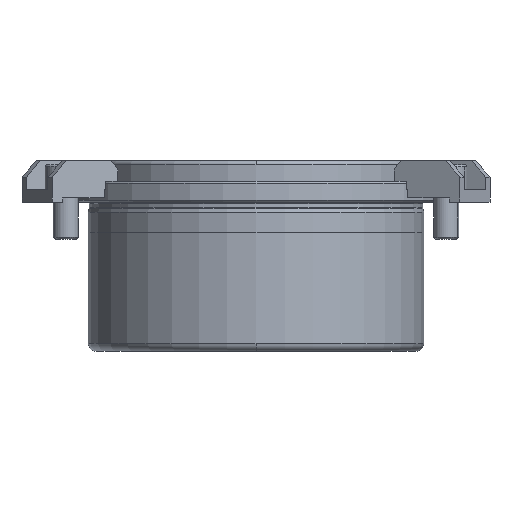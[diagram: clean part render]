
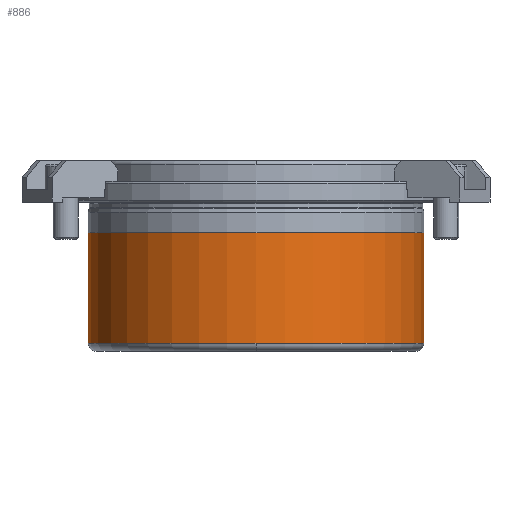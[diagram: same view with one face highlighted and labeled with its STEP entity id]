
A CAD part, front view. The second image highlights one B-rep face of the part: STEP entity #886.
In plain terms, the highlighted cylindrical face has radius 40.496 mm (diameter 80.992 mm), a partial arc.
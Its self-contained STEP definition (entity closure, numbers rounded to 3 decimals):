
#836=CARTESIAN_POINT('',(0.0,0.,-20.7));
#837=DIRECTION('',(0.0,0.,1.0));
#838=DIRECTION('',(1.0,0.0,0.0));
#839=AXIS2_PLACEMENT_3D('',#836,#837,#838);
#840=CYLINDRICAL_SURFACE('',#839,40.496);
#841=CARTESIAN_POINT('',(40.496,0.,-7.4));
#842=VERTEX_POINT('',#841);
#843=CARTESIAN_POINT('',(40.496,0.,-34.0));
#844=VERTEX_POINT('',#843);
#845=CARTESIAN_POINT('',(40.496,0.,-7.4));
#846=DIRECTION('',(0.0,0.0,-1.0));
#847=VECTOR('',#846,26.6);
#848=LINE('',#845,#847);
#849=EDGE_CURVE('',#842,#844,#848,.T.);
#850=ORIENTED_EDGE('',*,*,#849,.F.);
#851=CARTESIAN_POINT('',(-40.496,0.,-7.4));
#852=VERTEX_POINT('',#851);
#853=CARTESIAN_POINT('',(0.0,0.,-7.4));
#854=DIRECTION('',(0.0,0.0,1.0));
#855=DIRECTION('',(1.0,0.0,0.0));
#856=AXIS2_PLACEMENT_3D('',#853,#854,#855);
#857=CIRCLE('',#856,40.496);
#858=EDGE_CURVE('',#852,#842,#857,.T.);
#859=ORIENTED_EDGE('',*,*,#858,.F.);
#860=CARTESIAN_POINT('',(-40.496,0.,-34.0));
#861=VERTEX_POINT('',#860);
#862=CARTESIAN_POINT('',(-40.496,0.,-7.4));
#863=DIRECTION('',(0.0,0.0,-1.0));
#864=VECTOR('',#863,26.6);
#865=LINE('',#862,#864);
#866=EDGE_CURVE('',#852,#861,#865,.T.);
#867=ORIENTED_EDGE('',*,*,#866,.T.);
#868=CARTESIAN_POINT('',(0.0,-40.496,-34.0));
#869=VERTEX_POINT('',#868);
#870=CARTESIAN_POINT('',(0.0,0.,-34.0));
#871=DIRECTION('',(0.0,0.0,1.0));
#872=DIRECTION('',(1.0,0.0,0.0));
#873=AXIS2_PLACEMENT_3D('',#870,#871,#872);
#874=CIRCLE('',#873,40.496);
#875=EDGE_CURVE('',#861,#869,#874,.T.);
#876=ORIENTED_EDGE('',*,*,#875,.T.);
#877=CARTESIAN_POINT('',(0.0,0.,-34.0));
#878=DIRECTION('',(0.0,0.0,1.0));
#879=DIRECTION('',(1.0,0.0,0.0));
#880=AXIS2_PLACEMENT_3D('',#877,#878,#879);
#881=CIRCLE('',#880,40.496);
#882=EDGE_CURVE('',#869,#844,#881,.T.);
#883=ORIENTED_EDGE('',*,*,#882,.T.);
#884=EDGE_LOOP('',(#850,#859,#867,#876,#883));
#885=FACE_OUTER_BOUND('',#884,.T.);
#886=ADVANCED_FACE('',(#885),#840,.T.);
